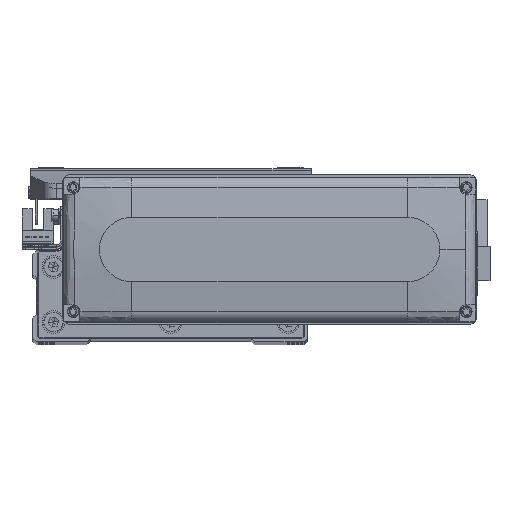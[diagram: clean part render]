
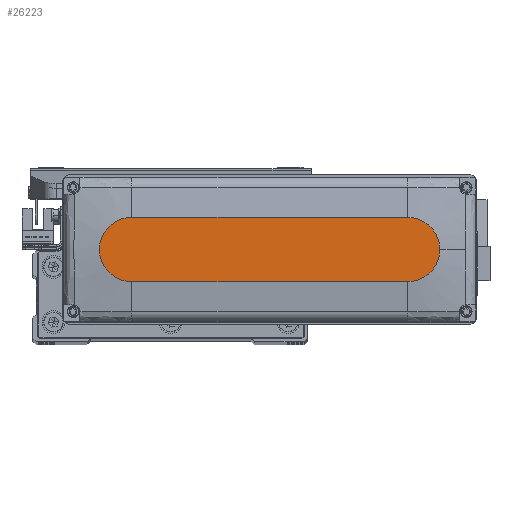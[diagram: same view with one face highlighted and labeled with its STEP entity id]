
A CAD part, top view. The second image highlights one B-rep face of the part: STEP entity #26223.
In plain terms, the highlighted planar face has unit normal (0, 0, 1).
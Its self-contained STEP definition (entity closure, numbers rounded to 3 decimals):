
#46 = AXIS2_PLACEMENT_3D ( 'NONE', #18685, #22704, #30700 ) ;
#1267 = ORIENTED_EDGE ( 'NONE', *, *, #33498, .T. ) ;
#2962 = CARTESIAN_POINT ( 'NONE',  ( 60., 14., 28.5 ) ) ;
#3201 = VERTEX_POINT ( 'NONE', #37268 ) ;
#3205 = CARTESIAN_POINT ( 'NONE',  ( 74., 0., 28.5 ) ) ;
#4062 = EDGE_CURVE ( 'NONE', #10800, #46651, #36604, .T. ) ;
#4430 = VECTOR ( 'NONE', #50520, 1000. ) ;
#4532 = CARTESIAN_POINT ( 'NONE',  ( -60., 14., 28.5 ) ) ;
#7566 = ORIENTED_EDGE ( 'NONE', *, *, #26174, .T. ) ;
#8044 = DIRECTION ( 'NONE',  ( 0., 0., 1. ) ) ;
#8241 = AXIS2_PLACEMENT_3D ( 'NONE', #32605, #8044, #48928 ) ;
#10629 = DIRECTION ( 'NONE',  ( 0., 0., 1. ) ) ;
#10800 = VERTEX_POINT ( 'NONE', #2962 ) ;
#13707 = ORIENTED_EDGE ( 'NONE', *, *, #4062, .T. ) ;
#13909 = LINE ( 'NONE', #18968, #4430 ) ;
#15427 = CARTESIAN_POINT ( 'NONE',  ( 60., 0., 28.5 ) ) ;
#17238 = AXIS2_PLACEMENT_3D ( 'NONE', #15427, #10629, #18920 ) ;
#18685 = CARTESIAN_POINT ( 'NONE',  ( -60., 0., 28.5 ) ) ;
#18920 = DIRECTION ( 'NONE',  ( 1., 0., 0. ) ) ;
#18968 = CARTESIAN_POINT ( 'NONE',  ( -60., -14., 28.5 ) ) ;
#22704 = DIRECTION ( 'NONE',  ( 0., 0., 1. ) ) ;
#23969 = DIRECTION ( 'NONE',  ( 0., 0., 1. ) ) ;
#24688 = VERTEX_POINT ( 'NONE', #44355 ) ;
#24883 = AXIS2_PLACEMENT_3D ( 'NONE', #48824, #23969, #52834 ) ;
#25981 = EDGE_LOOP ( 'NONE', ( #13707, #52029, #26428, #7566, #1267 ) ) ;
#26174 = EDGE_CURVE ( 'NONE', #3201, #49965, #45389, .T. ) ;
#26223 = ADVANCED_FACE ( 'NONE', ( #49351 ), #48559, .T. ) ;
#26428 = ORIENTED_EDGE ( 'NONE', *, *, #37766, .T. ) ;
#29916 = CIRCLE ( 'NONE', #46, 14. ) ;
#30700 = DIRECTION ( 'NONE',  ( 1., 0., 0. ) ) ;
#32605 = CARTESIAN_POINT ( 'NONE',  ( 60., 0., 28.5 ) ) ;
#33498 = EDGE_CURVE ( 'NONE', #49965, #10800, #39856, .T. ) ;
#33612 = CARTESIAN_POINT ( 'NONE',  ( -60., 14., 28.5 ) ) ;
#36546 = EDGE_CURVE ( 'NONE', #46651, #24688, #29916, .T. ) ;
#36604 = LINE ( 'NONE', #4532, #38538 ) ;
#37268 = CARTESIAN_POINT ( 'NONE',  ( 60., -14., 28.5 ) ) ;
#37766 = EDGE_CURVE ( 'NONE', #24688, #3201, #13909, .T. ) ;
#38538 = VECTOR ( 'NONE', #44910, 1000. ) ;
#39856 = CIRCLE ( 'NONE', #8241, 14. ) ;
#44355 = CARTESIAN_POINT ( 'NONE',  ( -60., -14., 28.5 ) ) ;
#44910 = DIRECTION ( 'NONE',  ( -1., 0., 0. ) ) ;
#45389 = CIRCLE ( 'NONE', #17238, 14. ) ;
#46651 = VERTEX_POINT ( 'NONE', #33612 ) ;
#48559 = PLANE ( 'NONE',  #24883 ) ;
#48824 = CARTESIAN_POINT ( 'NONE',  ( 0., 0., 28.5 ) ) ;
#48928 = DIRECTION ( 'NONE',  ( 1., 0., 0. ) ) ;
#49351 = FACE_OUTER_BOUND ( 'NONE', #25981, .T. ) ;
#49965 = VERTEX_POINT ( 'NONE', #3205 ) ;
#50520 = DIRECTION ( 'NONE',  ( 1., 0., 0. ) ) ;
#52029 = ORIENTED_EDGE ( 'NONE', *, *, #36546, .T. ) ;
#52834 = DIRECTION ( 'NONE',  ( 1., 0., 0. ) ) ;
